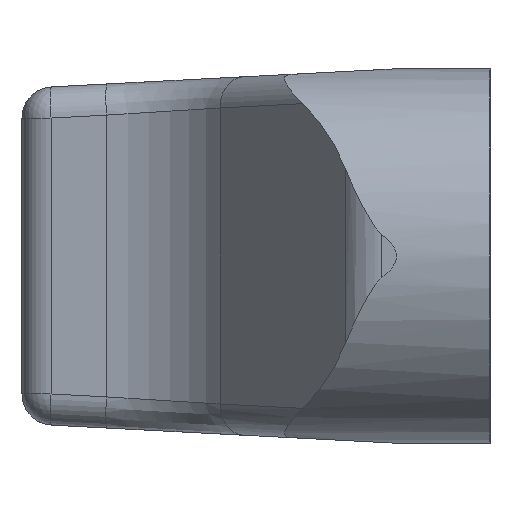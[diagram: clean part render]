
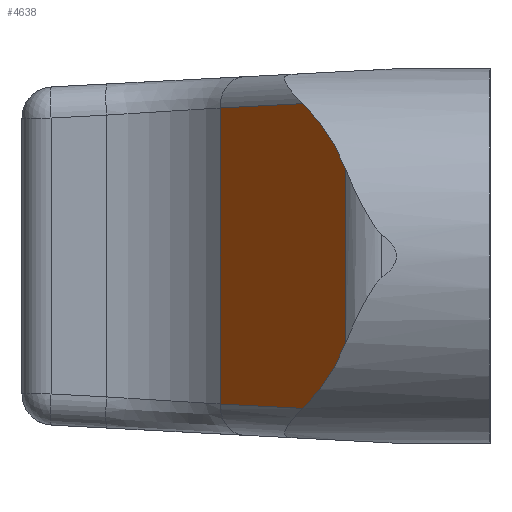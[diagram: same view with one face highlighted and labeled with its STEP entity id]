
A CAD part, left-side view. The second image highlights one B-rep face of the part: STEP entity #4638.
In plain terms, the highlighted planar face has unit normal (-0.602, 0.798, 0).
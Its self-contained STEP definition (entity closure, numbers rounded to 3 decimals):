
#15 = EDGE_CURVE ( 'NONE', #4269, #3751, #6158, .T. ) ;
#235 = EDGE_LOOP ( 'NONE', ( #1371, #6145, #8036, #3543, #4258, #5538 ) ) ;
#647 = DIRECTION ( 'NONE',  ( -0.798, -0.602, 0.032 ) ) ;
#760 = CARTESIAN_POINT ( 'NONE',  ( 1.119, 1.952, 3.616 ) ) ;
#811 = CARTESIAN_POINT ( 'NONE',  ( 6.025, 5.651, 6. ) ) ;
#1239 = CARTESIAN_POINT ( 'NONE',  ( 0.68, 1.621, 6. ) ) ;
#1371 = ORIENTED_EDGE ( 'NONE', *, *, #15, .F. ) ;
#1609 = VECTOR ( 'NONE', #647, 1000. ) ;
#1852 = DIRECTION ( 'NONE',  ( 0.798, 0.602, 0. ) ) ;
#2262 = DIRECTION ( 'NONE',  ( 0., 0., -1. ) ) ;
#2723 = CARTESIAN_POINT ( 'NONE',  ( 1.742, 2.421, -4.332 ) ) ;
#3456 = EDGE_CURVE ( 'NONE', #10040, #4269, #12464, .T. ) ;
#3543 = ORIENTED_EDGE ( 'NONE', *, *, #7162, .F. ) ;
#3751 = VERTEX_POINT ( 'NONE', #12476 ) ;
#4258 = ORIENTED_EDGE ( 'NONE', *, *, #9278, .F. ) ;
#4269 = VERTEX_POINT ( 'NONE', #7033 ) ;
#4638 = ADVANCED_FACE ( 'NONE', ( #9926 ), #6749, .F. ) ;
#4727 = CARTESIAN_POINT ( 'NONE',  ( 1.119, 1.952, -3.616 ) ) ;
#4830 = LINE ( 'NONE', #11222, #12664 ) ;
#5102 = DIRECTION ( 'NONE',  ( 0.798, 0.602, 0.032 ) ) ;
#5291 = EDGE_CURVE ( 'NONE', #3751, #5832, #12590, .T. ) ;
#5538 = ORIENTED_EDGE ( 'NONE', *, *, #5291, .F. ) ;
#5832 = VERTEX_POINT ( 'NONE', #10489 ) ;
#5885 = DIRECTION ( 'NONE',  ( 0., 0., -1. ) ) ;
#6130 = VERTEX_POINT ( 'NONE', #6529 ) ;
#6145 = ORIENTED_EDGE ( 'NONE', *, *, #3456, .F. ) ;
#6158 =( BOUNDED_CURVE ( )  B_SPLINE_CURVE ( 3, ( #11796, #11476, #760, #11353 ),
 .UNSPECIFIED., .F., .T. ) 
 B_SPLINE_CURVE_WITH_KNOTS ( ( 4, 4 ),
 ( 5.332, 5.802 ),
 .UNSPECIFIED. ) 
 CURVE ( )  GEOMETRIC_REPRESENTATION_ITEM ( )  RATIONAL_B_SPLINE_CURVE ( ( 1., 0.982, 0.982, 1. ) ) 
 REPRESENTATION_ITEM ( '' )  );
#6529 = CARTESIAN_POINT ( 'NONE',  ( 6.025, 5.651, -4.744 ) ) ;
#6581 = CARTESIAN_POINT ( 'NONE',  ( 2.514, 3.003, -4.883 ) ) ;
#6659 =( BOUNDED_CURVE ( )  B_SPLINE_CURVE ( 3, ( #9784, #4727, #2723, #9832 ),
 .UNSPECIFIED., .F., .T. ) 
 B_SPLINE_CURVE_WITH_KNOTS ( ( 4, 4 ),
 ( 0.481, 0.951 ),
 .UNSPECIFIED. ) 
 CURVE ( )  GEOMETRIC_REPRESENTATION_ITEM ( )  RATIONAL_B_SPLINE_CURVE ( ( 1., 0.982, 0.982, 1. ) ) 
 REPRESENTATION_ITEM ( '' )  );
#6708 = CARTESIAN_POINT ( 'NONE',  ( 6.001, 5.633, 4.745 ) ) ;
#6749 = PLANE ( 'NONE',  #11111 ) ;
#7033 = CARTESIAN_POINT ( 'NONE',  ( 2.514, 3.003, 4.883 ) ) ;
#7122 = VECTOR ( 'NONE', #2262, 1000. ) ;
#7162 = EDGE_CURVE ( 'NONE', #10018, #6130, #4830, .T. ) ;
#7912 = DIRECTION ( 'NONE',  ( 0.602, -0.798, 0. ) ) ;
#8036 = ORIENTED_EDGE ( 'NONE', *, *, #9735, .T. ) ;
#8218 = VECTOR ( 'NONE', #5885, 1000. ) ;
#9278 = EDGE_CURVE ( 'NONE', #5832, #10018, #6659, .T. ) ;
#9735 = EDGE_CURVE ( 'NONE', #10040, #6130, #10974, .T. ) ;
#9784 = CARTESIAN_POINT ( 'NONE',  ( 0.68, 1.621, -2.775 ) ) ;
#9832 = CARTESIAN_POINT ( 'NONE',  ( 2.514, 3.003, -4.883 ) ) ;
#9926 = FACE_OUTER_BOUND ( 'NONE', #235, .T. ) ;
#10018 = VERTEX_POINT ( 'NONE', #6581 ) ;
#10040 = VERTEX_POINT ( 'NONE', #10743 ) ;
#10489 = CARTESIAN_POINT ( 'NONE',  ( 0.68, 1.621, -2.775 ) ) ;
#10743 = CARTESIAN_POINT ( 'NONE',  ( 6.025, 5.651, 4.744 ) ) ;
#10974 = LINE ( 'NONE', #12017, #8218 ) ;
#11111 = AXIS2_PLACEMENT_3D ( 'NONE', #811, #7912, #1852 ) ;
#11222 = CARTESIAN_POINT ( 'NONE',  ( 4.33, 4.373, -4.811 ) ) ;
#11353 = CARTESIAN_POINT ( 'NONE',  ( 0.68, 1.621, 2.775 ) ) ;
#11476 = CARTESIAN_POINT ( 'NONE',  ( 1.742, 2.421, 4.332 ) ) ;
#11796 = CARTESIAN_POINT ( 'NONE',  ( 2.514, 3.003, 4.883 ) ) ;
#12017 = CARTESIAN_POINT ( 'NONE',  ( 6.025, 5.651, 6. ) ) ;
#12464 = LINE ( 'NONE', #6708, #1609 ) ;
#12476 = CARTESIAN_POINT ( 'NONE',  ( 0.68, 1.621, 2.775 ) ) ;
#12590 = LINE ( 'NONE', #1239, #7122 ) ;
#12664 = VECTOR ( 'NONE', #5102, 1000. ) ;
